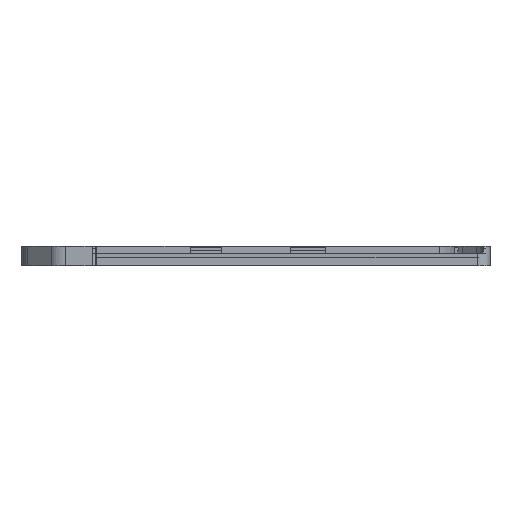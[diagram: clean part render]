
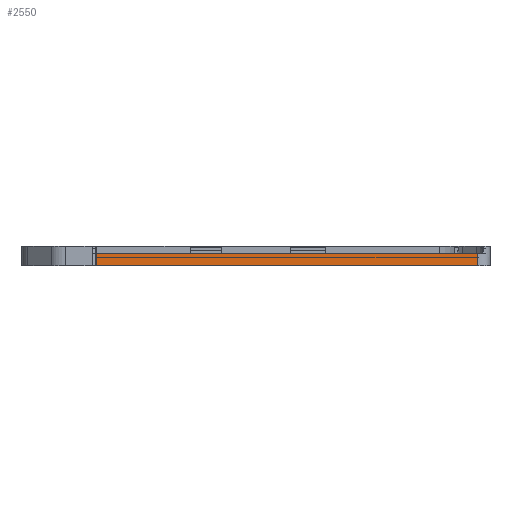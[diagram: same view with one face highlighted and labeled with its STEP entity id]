
A CAD part, left-side view. The second image highlights one B-rep face of the part: STEP entity #2550.
In plain terms, the highlighted planar face has unit normal (-1, 0, 0).
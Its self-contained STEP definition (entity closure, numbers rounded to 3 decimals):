
#956=CARTESIAN_POINT('',(-131.2,-54.7,-38.574));
#962=CARTESIAN_POINT('',(-131.2,-54.5,-38.583));
#963=CARTESIAN_POINT('',(-131.2,-54.533,-38.583));
#964=CARTESIAN_POINT('',(-131.2,-54.6,-38.581));
#965=CARTESIAN_POINT('',(-131.2,-54.666,-38.577));
#966=CARTESIAN_POINT('',(-131.2,-54.7,-38.574));
#976=DIRECTION('',(0.,0.,1.));
#977=VECTOR('',#976,2.926);
#978=CARTESIAN_POINT('',(-131.2,-54.7,-41.5));
#979=LINE('',#978,#977);
#980=DIRECTION('',(0.,0.,1.));
#981=VECTOR('',#980,2.917);
#982=CARTESIAN_POINT('',(-131.2,40.,-41.5));
#983=LINE('',#982,#981);
#1021=DIRECTION('',(0.,-1.,0.));
#1022=VECTOR('',#1021,94.7);
#1023=CARTESIAN_POINT('',(-131.2,40.,-41.5));
#1024=LINE('',#1023,#1022);
#1473=DIRECTION('',(0.,1.,0.));
#1474=VECTOR('',#1473,94.5);
#1475=CARTESIAN_POINT('',(-131.2,-54.5,-38.583));
#1476=LINE('',#1475,#1474);
#1867=CARTESIAN_POINT('',(-131.2,-54.5,-38.583));
#1868=VERTEX_POINT('',#1867);
#1869=CARTESIAN_POINT('',(-131.2,40.,-41.5));
#1870=CARTESIAN_POINT('',(-131.2,40.,-38.583));
#1871=VERTEX_POINT('',#1869);
#1872=VERTEX_POINT('',#1870);
#1879=VERTEX_POINT('',#956);
#1887=CARTESIAN_POINT('',(-131.2,-54.7,-41.5));
#1888=VERTEX_POINT('',#1887);
#2535=CARTESIAN_POINT('',(-131.2,-60.848,-36.7));
#2536=DIRECTION('',(1.,0.,0.));
#2537=DIRECTION('',(0.,1.,0.));
#2538=AXIS2_PLACEMENT_3D('',#2535,#2536,#2537);
#2539=PLANE('',#2538);
#2540=ORIENTED_EDGE('',*,*,#2509,.F.);
#2542=ORIENTED_EDGE('',*,*,#2541,.F.);
#2544=ORIENTED_EDGE('',*,*,#2543,.T.);
#2546=ORIENTED_EDGE('',*,*,#2545,.F.);
#2547=ORIENTED_EDGE('',*,*,#2520,.T.);
#2548=EDGE_LOOP('',(#2540,#2542,#2544,#2546,#2547));
#2549=FACE_OUTER_BOUND('',#2548,.F.);
#967=B_SPLINE_CURVE_WITH_KNOTS('',3,(#962,#963,#964,#965,#966),.UNSPECIFIED.,
.F.,.F.,(4,1,4),(0.,0.5,1.),.UNSPECIFIED.);
#2509=EDGE_CURVE('',#1888,#1879,#979,.T.);
#2520=EDGE_CURVE('',#1868,#1879,#967,.T.);
#2541=EDGE_CURVE('',#1871,#1888,#1024,.T.);
#2543=EDGE_CURVE('',#1871,#1872,#983,.T.);
#2545=EDGE_CURVE('',#1868,#1872,#1476,.T.);
#2550=ADVANCED_FACE('',(#2549),#2539,.F.);
